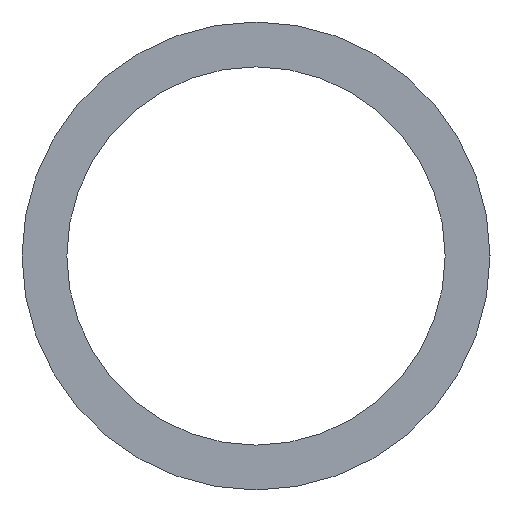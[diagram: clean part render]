
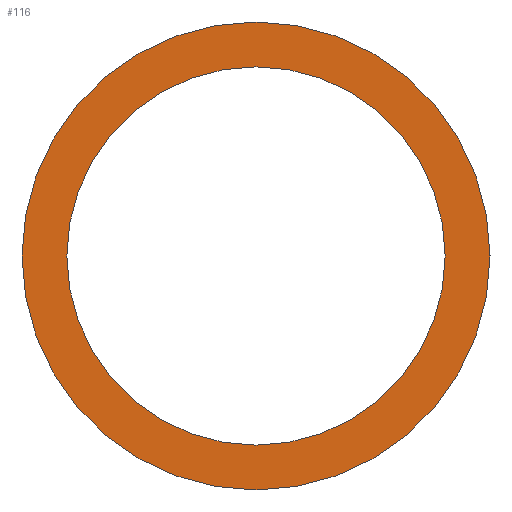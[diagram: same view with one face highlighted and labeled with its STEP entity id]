
A CAD part, left-side view. The second image highlights one B-rep face of the part: STEP entity #116.
In plain terms, the highlighted planar face has unit normal (-1, 0, 0).
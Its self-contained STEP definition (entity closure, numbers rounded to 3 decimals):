
#4 = VERTEX_POINT ( 'NONE', #9 ) ;
#6 = CARTESIAN_POINT ( 'NONE',  ( 0., 0., 55.2 ) ) ;
#9 = CARTESIAN_POINT ( 'NONE',  ( 0., 0., -55.2 ) ) ;
#10 = CARTESIAN_POINT ( 'NONE',  ( 0., 0., -44.625 ) ) ;
#14 = ORIENTED_EDGE ( 'NONE', *, *, #111, .T. ) ;
#16 = EDGE_LOOP ( 'NONE', ( #26, #38 ) ) ;
#19 = VERTEX_POINT ( 'NONE', #10 ) ;
#20 = EDGE_LOOP ( 'NONE', ( #27, #14 ) ) ;
#26 = ORIENTED_EDGE ( 'NONE', *, *, #110, .F. ) ;
#27 = ORIENTED_EDGE ( 'NONE', *, *, #103, .T. ) ;
#32 = VERTEX_POINT ( 'NONE', #45 ) ;
#38 = ORIENTED_EDGE ( 'NONE', *, *, #106, .F. ) ;
#45 = CARTESIAN_POINT ( 'NONE',  ( 0., 0., 44.625 ) ) ;
#47 = VERTEX_POINT ( 'NONE', #6 ) ;
#54 = AXIS2_PLACEMENT_3D ( 'NONE', #135, #136, #137 ) ;
#56 = CIRCLE ( 'NONE', #61, 55.2 ) ;
#61 = AXIS2_PLACEMENT_3D ( 'NONE', #144, #145, #146 ) ;
#82 = AXIS2_PLACEMENT_3D ( 'NONE', #180, #186, #187 ) ;
#87 = AXIS2_PLACEMENT_3D ( 'NONE', #161, #162, #163 ) ;
#88 = AXIS2_PLACEMENT_3D ( 'NONE', #157, #158, #159 ) ;
#89 = CIRCLE ( 'NONE', #87, 44.625 ) ;
#91 = CIRCLE ( 'NONE', #88, 55.2 ) ;
#94 = CIRCLE ( 'NONE', #54, 44.625 ) ;
#103 = EDGE_CURVE ( 'NONE', #32, #19, #94, .T. ) ;
#106 = EDGE_CURVE ( 'NONE', #4, #47, #56, .T. ) ;
#110 = EDGE_CURVE ( 'NONE', #47, #4, #91, .T. ) ;
#111 = EDGE_CURVE ( 'NONE', #19, #32, #89, .T. ) ;
#116 = ADVANCED_FACE ( 'NONE', ( #183, #176 ), #184, .F. ) ;
#135 = CARTESIAN_POINT ( 'NONE',  ( 0., 0., 0. ) ) ;
#136 = DIRECTION ( 'NONE',  ( 1., 0., 0. ) ) ;
#137 = DIRECTION ( 'NONE',  ( 0., 0., -1. ) ) ;
#144 = CARTESIAN_POINT ( 'NONE',  ( 0., 0., 0. ) ) ;
#145 = DIRECTION ( 'NONE',  ( 1., 0., 0. ) ) ;
#146 = DIRECTION ( 'NONE',  ( 0., 0., -1. ) ) ;
#157 = CARTESIAN_POINT ( 'NONE',  ( 0., 0., 0. ) ) ;
#158 = DIRECTION ( 'NONE',  ( 1., 0., 0. ) ) ;
#159 = DIRECTION ( 'NONE',  ( 0., 0., -1. ) ) ;
#161 = CARTESIAN_POINT ( 'NONE',  ( 0., 0., 0. ) ) ;
#162 = DIRECTION ( 'NONE',  ( 1., 0., 0. ) ) ;
#163 = DIRECTION ( 'NONE',  ( 0., 0., -1. ) ) ;
#176 = FACE_BOUND ( 'NONE', #20, .T. ) ;
#180 = CARTESIAN_POINT ( 'NONE',  ( 0., 0., 0. ) ) ;
#183 = FACE_OUTER_BOUND ( 'NONE', #16, .T. ) ;
#184 = PLANE ( 'NONE',  #82 ) ;
#186 = DIRECTION ( 'NONE',  ( 1., 0., 0. ) ) ;
#187 = DIRECTION ( 'NONE',  ( 0., 0., -1. ) ) ;
